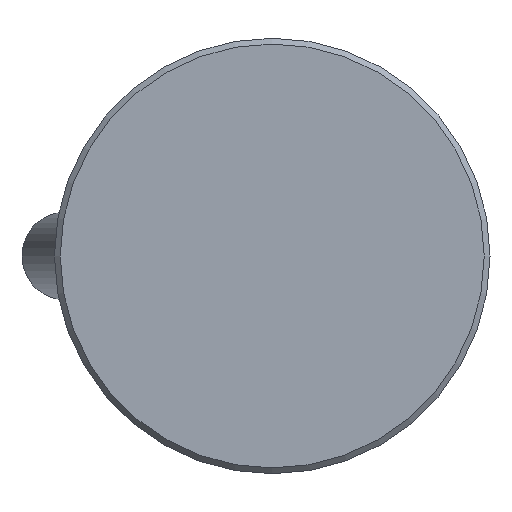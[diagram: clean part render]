
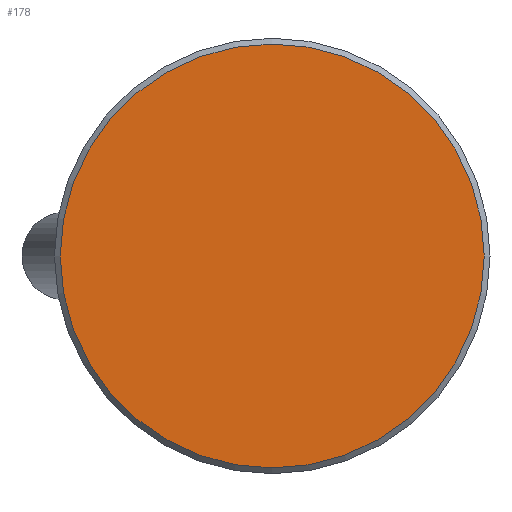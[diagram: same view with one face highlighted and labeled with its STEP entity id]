
A CAD part, front view. The second image highlights one B-rep face of the part: STEP entity #178.
In plain terms, the highlighted planar face has unit normal (0, -1, 0).
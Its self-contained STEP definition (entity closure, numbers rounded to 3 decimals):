
#178 = ADVANCED_FACE( '', ( #354 ), #355, .F. );
#354 = FACE_OUTER_BOUND( '', #550, .T. );
#355 = PLANE( '', #551 );
#550 = EDGE_LOOP( '', ( #817 ) );
#551 = AXIS2_PLACEMENT_3D( '', #818, #819, #820 );
#817 = ORIENTED_EDGE( '', *, *, #1173, .T. );
#818 = CARTESIAN_POINT( '', ( 29.2, 0., 0. ) );
#819 = DIRECTION( '', ( 0., 1., 0. ) );
#820 = DIRECTION( '', ( 0., 0., 1. ) );
#1173 = EDGE_CURVE( '', #1374, #1374, #1375, .T. );
#1374 = VERTEX_POINT( '', #1752 );
#1375 = CIRCLE( '', #1753, 29.2 );
#1752 = CARTESIAN_POINT( '', ( 0., 0., -29.2 ) );
#1753 = AXIS2_PLACEMENT_3D( '', #2052, #2053, #2054 );
#2052 = CARTESIAN_POINT( '', ( 0., 0., 0. ) );
#2053 = DIRECTION( '', ( 0., -1., 0. ) );
#2054 = DIRECTION( '', ( 0., 0., -1. ) );
